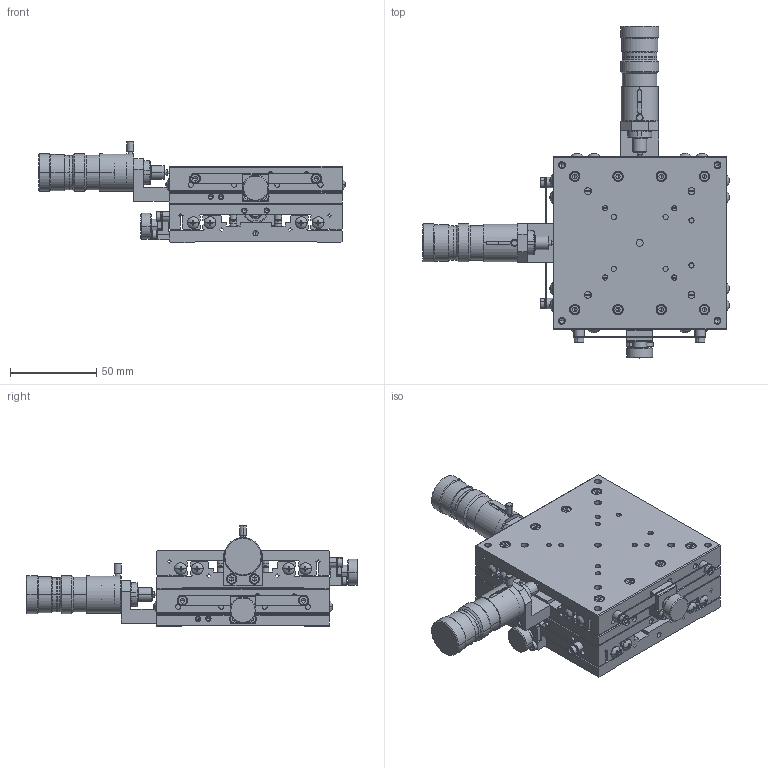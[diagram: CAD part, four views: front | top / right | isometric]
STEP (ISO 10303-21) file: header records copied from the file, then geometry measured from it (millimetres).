
FILE_DESCRIPTION (( 'STEP AP214' ), '1' );
FILE_NAME ('YM10F-C3-CL.STEP', '2009-05-11T08:15:37', ( ' ' ), ( ' ' ), 'SwSTEP 2.0', 'SolidWorks 2008', '' );
FILE_SCHEMA (( 'AUTOMOTIVE_DESIGN' ));
Length unit declared in the file: millimetre
Products named in the file (10): 001190-1023(3D)-3; XM10F-C3-CL(PL); YM10F-C3-CL; XM10F-C3-CL(PL)-1; 001190-1011(3D)-Part-2-4; 001190-1011(3D)-Part-1-4; 001190-1011(3D)-4; 001190-1011(3D)-Part-1-5; 001190-1011(3D)-5; 001190-1011(3D)-Part-2-5
Assembly tree (9 placements, depth 4):
  YM10F-C3-CL
    XM10F-C3-CL(PL)-1
      001190-1023(3D)-3
      001190-1011(3D)-5
        001190-1011(3D)-Part-2-5
        001190-1011(3D)-Part-1-5
    XM10F-C3-CL(PL)
      001190-1011(3D)-4
        001190-1011(3D)-Part-1-4
        001190-1011(3D)-Part-2-4
Bounding box: 177.37 x 192 x 58.5 mm (x, y, z)
Volume: 419291 mm3; surface area: 158453.9 mm2
Topology: 5 solids, 105 shells, 3644 faces, 8666 edges, 5194 vertices
Faces by surface type: plane 1644, cylinder 1128, cone 806, sphere 34, torus 32
Entity records: 104393 total; most frequent: DIRECTION 19054, CARTESIAN_POINT 18834, ORIENTED_EDGE 16876, EDGE_CURVE 8438, AXIS2_PLACEMENT_3D 7300, VERTEX_POINT 5192, VECTOR 4454, LINE 4454
